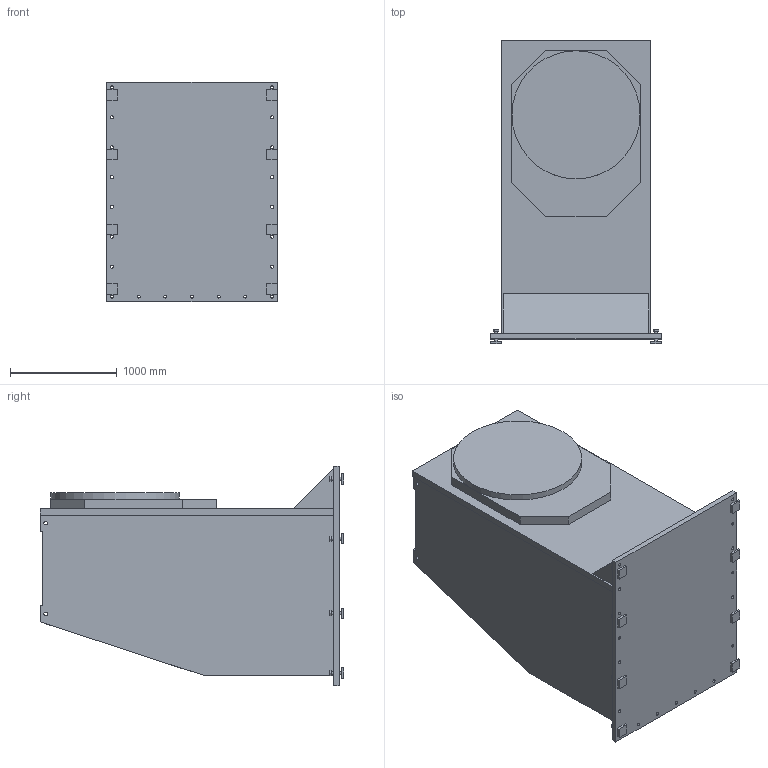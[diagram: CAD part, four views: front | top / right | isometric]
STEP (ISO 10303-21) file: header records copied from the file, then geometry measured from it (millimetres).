
FILE_DESCRIPTION((''),'2;1');
FILE_NAME('S:\Manipulatorer\Produkter\Layout symboler\HSB\215197-100 HSB-20000SN (enkel drift) (STEP).stp','2008-01-18T11:03:33',('Kristian'),(''),'Autodesk Inventor 2008','Autodesk Inventor 2008','');
FILE_SCHEMA(('AUTOMOTIVE_DESIGN { 1 0 10303 214 1 1 1 1 }'));
Length unit declared in the file: millimetre
Products named in the file (2): 215197-100 HSB-20000SN (enkel drift) (No details); 215197-100 HSB-20000SN (enkel drift) (low-res)
Assembly tree (1 placements, depth 2):
  215197-100 HSB-20000SN (enkel drift) (No details)
    215197-100 HSB-20000SN (enkel drift) (low-res)
Bounding box: 1600 x 2843 x 2060 mm (x, y, z)
Volume: 5668587365.2 mm3; surface area: 22944017.4 mm2
Topology: 1 solids, 1 shells, 260 faces, 631 edges, 423 vertices
Faces by surface type: plane 163, bspline 40, cylinder 33, cone 24
Full cylindrical faces by diameter (mm): 30 x16, 34 x4, 42.75 x8, 1200 x1
Entity records: 7690 total; most frequent: CARTESIAN_POINT 1831, DIRECTION 1060, ORIENTED_EDGE 1056, EDGE_CURVE 528, EDGE_LOOP 426, VERTEX_POINT 386, AXIS2_PLACEMENT_3D 373, VECTOR 314
